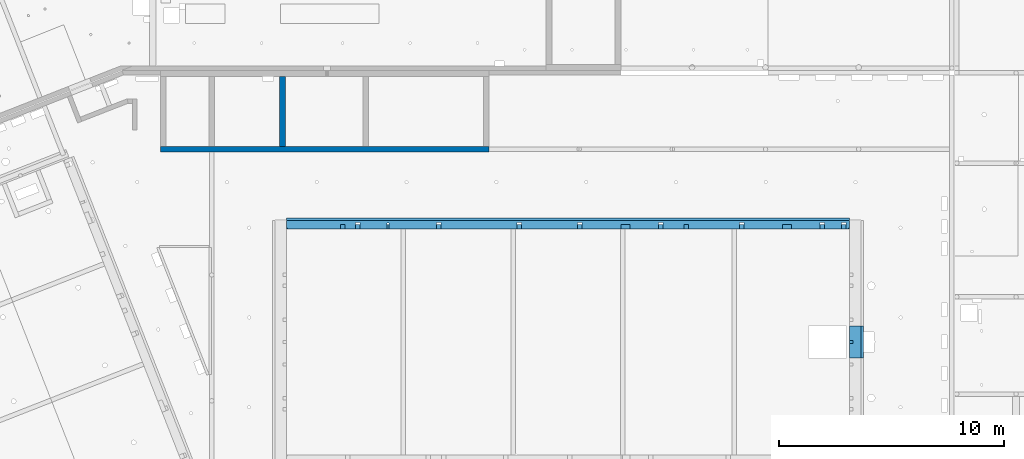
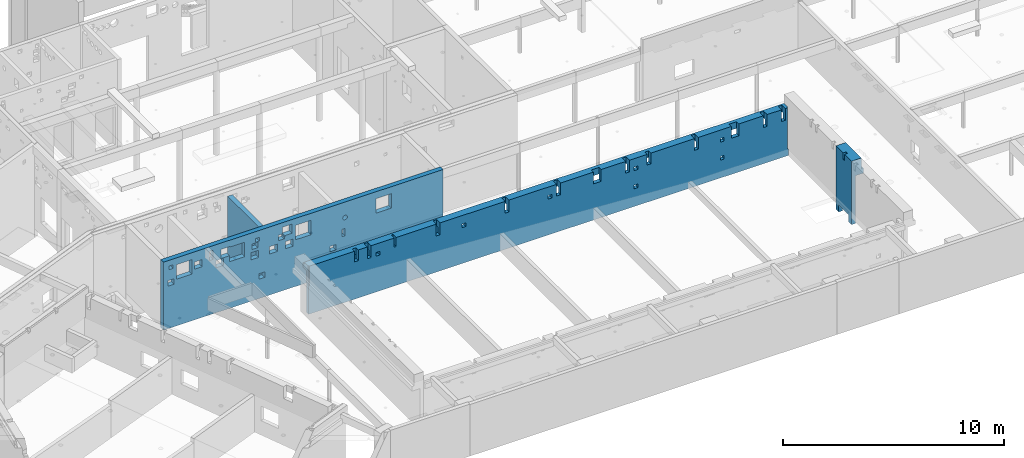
# One storey, part 20 of 28: 4 walls, 47 openings.
"""IFC2X3 building model written with IfcOpenShell, lengths in metres."""

from ifc_helpers import new_model, entity, si_unit, converted_unit, direction, frame, frame_2d, origin, origin_with_axes, place, context, subcontext, project, spatial, polyline, rectangle, outline, extrude, clip, bounded_halfspace, material, layer, layer_set, layer_usage, element, save


model = new_model("IFC2X3")

# Units and contexts
model_context = context("Model", 3, precision=1e-05, world=origin(), true_north=direction((-0.407059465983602, -0.913401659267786)))
body_context = subcontext(model_context, "Body", "Model", "MODEL_VIEW")
ifc_project = project(units=[si_unit("LENGTHUNIT", "METRE"), si_unit("AREAUNIT", "SQUARE_METRE"), si_unit("VOLUMEUNIT", "CUBIC_METRE"), si_unit("MASSUNIT", "GRAM", prefix="KILO"), converted_unit("PLANEANGLEUNIT", "DEGREE", entity("IfcPlaneAngleMeasure", 0.0174532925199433), si_unit("PLANEANGLEUNIT", "RADIAN"), dimensions=[0, 0, 0, 0, 0, 0, 0])], contexts=[model_context])

# Site, buildings, storey
site_placement = place(None, origin())
site = spatial("IfcSite", under=ifc_project, at=site_placement, Name="Site", CompositionType="ELEMENT")
building_1_placement = place(site_placement, origin())
building_1 = spatial("IfcBuilding", under=site, at=building_1_placement, Name="Site", CompositionType="COMPLEX")
building_2_placement = place(building_1_placement, origin())
building_2 = spatial("IfcBuilding", under=building_1, at=building_2_placement, Name="Bâtiments", CompositionType="ELEMENT")
storey_placement = place(building_2_placement, frame((0.0, 0.0, -5.3)))
storey = spatial("IfcBuildingStorey", under=building_2, at=storey_placement, Name="SOUS-SOL", CompositionType="ELEMENT", Elevation=-5.3)

# Wall, openings
ifc_material_1 = material(Name="Béton")
ifc_layer_1 = layer(ifc_material_1, 0.249999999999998)
ifc_layer_set_1 = layer_set([ifc_layer_1])
ifc_layer_usage_1 = layer_usage(ifc_layer_set_1, "AXIS2", "POSITIVE", -0.25)
wall_1_placement = place(storey_placement, frame((42.6996046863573, -8.60897559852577, 1.4), z_axis=(0.0, 0.0, 1.0), x_axis=(-0.99999999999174, 4.06450423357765e-06, 0.0)))
wall_1 = element("IfcWallStandardCase", 1, at=wall_1_placement, inside=storey, material=ifc_layer_usage_1, context=body_context, shape_type="SweptSolid", body=[
    extrude(outline(polyline([(-14.6334113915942, -0.250059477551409), (9.95173959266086e-07, -0.250059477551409), (2.41746759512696e-10, -5.94775514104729e-05), (-14.6334086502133, -5.94775514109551e-05), (-14.6334113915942, -0.250059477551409)])), frame((14.6334113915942, 0.250059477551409, 0.0), z_axis=(0.0, 0.0, 1.0), x_axis=(1.0, 0.0, 0.0)), (0.0, 0.0, 1.0), 3.76),
])
opening_1_placement = place(wall_1_placement, frame((2.71455003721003, -4.25038917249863e-05, 2.58), z_axis=(-9.34414856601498e-12, 1.0, 0.0), x_axis=(0.0, 0.0, 1.0)))
element("IfcOpeningElement", 2, at=opening_1_placement, cuts=wall_1, Name="TE-004", ObjectType="Opening", context=body_context, shape_type="SweptSolid", body=[
    extrude(outline(polyline([(0.0, 0.8), (0.8, 0.8), (0.8, 0.0), (0.0, 0.0), (0.0, 0.8)])), origin_with_axes(), (0.0, 0.0, 1.0), 0.250000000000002),
])
opening_2_placement = place(wall_1_placement, frame((5.00360675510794, 6.35459046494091e-15, 2.78000000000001), z_axis=(-9.3423295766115e-12, 1.0, 0.0), x_axis=(0.0, 0.0, 1.0)))
element("IfcOpeningElement", 3, at=opening_2_placement, cuts=wall_1, Name="CVC-033", ObjectType="Opening", context=body_context, shape_type="SweptSolid", body=[
    extrude(outline(polyline([(0.124999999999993, 0.25), (0.138066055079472, 0.249315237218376), (0.150988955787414, 0.247268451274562), (0.163627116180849, 0.243882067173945), (0.175842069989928, 0.239193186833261), (0.187499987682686, 0.233253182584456), (0.198473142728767, 0.22612713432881), (0.208641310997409, 0.217893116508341), (0.217893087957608, 0.208641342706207), (0.226127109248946, 0.198473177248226), (0.233253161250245, 0.187500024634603), (0.23919316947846, 0.175842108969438), (0.243882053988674, 0.163627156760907), (0.247268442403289, 0.150988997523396), (0.249315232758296, 0.138066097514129), (0.249999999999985, 0.125000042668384), (0.249315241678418, 0.111933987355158), (0.247268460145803, 0.0990110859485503), (0.24388208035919, 0.0863729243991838), (0.239193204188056, 0.0741579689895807), (0.233253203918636, 0.0625000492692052), (0.226127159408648, 0.0515268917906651), (0.217893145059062, 0.0413587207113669), (0.208641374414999, 0.0321069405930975), (0.198473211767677, 0.0238729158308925), (0.187500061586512, 0.0167468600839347), (0.175842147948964, 0.0108068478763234), (0.16362719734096, 0.00611795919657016), (0.150989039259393, 0.00273156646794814), (0.138066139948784, 0.000684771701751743), (0.124999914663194, 0.0), (0.111933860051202, 0.000684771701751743), (0.0990109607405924, 0.00273156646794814), (0.0863728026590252, 0.00611795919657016), (0.0741578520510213, 0.0108068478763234), (0.0624999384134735, 0.0167468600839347), (0.0515267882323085, 0.0238729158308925), (0.0413586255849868, 0.0321069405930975), (0.0321068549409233, 0.0413587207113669), (0.0238728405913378, 0.0515268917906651), (0.0167467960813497, 0.0625000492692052), (0.0108067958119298, 0.0741579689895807), (0.00611791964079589, 0.0863729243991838), (0.00273153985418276, 0.0990110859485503), (0.000684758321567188, 0.111933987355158), (0.0, 0.125000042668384), (0.000684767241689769, 0.138066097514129), (0.0027315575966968, 0.150988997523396), (0.00611794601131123, 0.163627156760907), (0.0108068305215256, 0.175842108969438), (0.0167468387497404, 0.187500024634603), (0.0238728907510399, 0.198473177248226), (0.032106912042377, 0.208641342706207), (0.0413586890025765, 0.217893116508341), (0.0515268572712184, 0.22612713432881), (0.062500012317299, 0.233253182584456), (0.0741579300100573, 0.239193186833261), (0.0863728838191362, 0.243882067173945), (0.0990110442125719, 0.247268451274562), (0.111933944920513, 0.249315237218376), (0.124999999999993, 0.25)])), origin_with_axes(), (0.0, 0.0, 1.0), 0.250000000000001),
])
opening_3_placement = place(wall_1_placement, frame((5.28201565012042, 0.250001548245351, 1.9), z_axis=(9.34232957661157e-12, -1.0, 0.0), x_axis=(0.0, 0.0, 1.0)))
element("IfcOpeningElement", 4, at=opening_3_placement, cuts=wall_1, Name="TE-073", ObjectType="Opening", context=body_context, shape_type="SweptSolid", body=[
    extrude(outline(polyline([(0.0, 0.150000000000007), (0.4, 0.150000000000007), (0.4, 0.0), (0.0, 0.0), (0.0, 0.150000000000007)])), origin_with_axes(), (0.0, 0.0, 1.0), 0.249999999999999),
])
opening_4_placement = place(wall_1_placement, frame((6.91567270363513, -2.57845626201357e-05, 2.58), z_axis=(-9.34596755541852e-12, 1.0, 0.0), x_axis=(0.0, 0.0, 1.0)))
element("IfcOpeningElement", 5, at=opening_4_placement, cuts=wall_1, Name="TE-003", ObjectType="Opening", context=body_context, shape_type="SweptSolid", body=[
    extrude(outline(polyline([(0.0, 0.800000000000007), (0.8, 0.800000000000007), (0.8, 0.0), (0.0, 0.0), (0.0, 0.800000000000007)])), origin_with_axes(), (0.0, 0.0, 1.0), 0.250000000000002),
])
opening_5_placement = place(wall_1_placement, frame((9.62827001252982, 0.250000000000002, 1.07), z_axis=(9.34960553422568e-12, -1.0, 0.0), x_axis=(0.0, 0.0, 1.0)))
element("IfcOpeningElement", 6, at=opening_5_placement, cuts=wall_1, Name="TE-060", ObjectType="Opening", context=body_context, shape_type="SweptSolid", body=[
    extrude(outline(polyline([(0.0, 0.3), (0.3, 0.3), (0.3, 0.0), (0.0, 0.0), (0.0, 0.3)])), origin_with_axes(), (0.0, 0.0, 1.0), 0.250000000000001),
])
opening_6_placement = place(wall_1_placement, frame((9.81827001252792, 0.25000091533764, 3.18), z_axis=(9.3423295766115e-12, -1.0, 0.0), x_axis=(0.0, 0.0, 1.0)))
element("IfcOpeningElement", 7, at=opening_6_placement, cuts=wall_1, Name="TE-061", ObjectType="Opening", context=body_context, shape_type="SweptSolid", body=[
    extrude(outline(polyline([(0.0, 0.199999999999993), (0.2, 0.199999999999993), (0.2, 0.0), (0.0, 0.0), (0.0, 0.199999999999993)])), origin_with_axes(), (0.0, 0.0, 1.0), 0.250000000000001),
])
opening_7_placement = place(wall_1_placement, frame((10.0463155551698, 0.250000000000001, 2.28), z_axis=(9.35688149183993e-12, -1.0, 0.0), x_axis=(0.0, 0.0, 1.0)))
element("IfcOpeningElement", 8, at=opening_7_placement, cuts=wall_1, Name="TE-078", ObjectType="Opening", context=body_context, shape_type="SweptSolid", body=[
    extrude(outline(polyline([(0.0, 0.399999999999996), (0.4, 0.399999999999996), (0.4, 0.0), (0.0, 0.0), (0.0, 0.399999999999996)])), origin_with_axes(), (0.0, 0.0, 1.0), 0.249999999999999),
])
opening_8_placement = place(wall_1_placement, frame((9.99654035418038, 0.249998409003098, 2.84), z_axis=(9.35688149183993e-12, -1.0, 0.0), x_axis=(0.0, 0.0, 1.0)))
element("IfcOpeningElement", 9, at=opening_8_placement, cuts=wall_1, Name="TE-058", ObjectType="Opening", context=body_context, shape_type="SweptSolid", body=[
    extrude(outline(polyline([(0.0, 0.300000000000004), (0.3, 0.300000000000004), (0.3, 0.0), (0.0, 0.0), (0.0, 0.300000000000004)])), origin_with_axes(), (0.0, 0.0, 1.0), 0.249999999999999),
])
opening_9_placement = place(wall_1_placement, frame((11.8769193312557, 0.250000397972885, 2.48), z_axis=(9.35688149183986e-12, -1.0, 0.0), x_axis=(0.0, 0.0, 1.0)))
element("IfcOpeningElement", 10, at=opening_9_placement, cuts=wall_1, Name="TE-079", ObjectType="Opening", context=body_context, shape_type="SweptSolid", body=[
    extrude(outline(polyline([(0.0, 0.400000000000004), (0.4, 0.400000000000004), (0.4, 0.0), (0.0, 0.0), (0.0, 0.400000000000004)])), origin_with_axes(), (0.0, 0.0, 1.0), 0.250000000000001),
])
opening_10_placement = place(wall_1_placement, frame((13.143398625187, -9.99902060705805e-07, 2.58), z_axis=(-9.36415744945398e-12, 1.0, 0.0), x_axis=(0.0, 0.0, 1.0)))
element("IfcOpeningElement", 11, at=opening_10_placement, cuts=wall_1, Name="TE-001", ObjectType="Opening", context=body_context, shape_type="SweptSolid", body=[
    extrude(outline(polyline([(0.0, 0.800000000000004), (0.8, 0.800000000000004), (0.8, 0.0), (0.0, 0.0), (0.0, 0.800000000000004)])), origin_with_axes(), (0.0, 0.0, 1.0), 0.250000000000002),
])
opening_11_placement = place(wall_1_placement, frame((14.0786867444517, -4.04224570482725e-15, 2.35), z_axis=(-9.36415744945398e-12, 1.0, 0.0), x_axis=(0.0, 0.0, 1.0)))
element("IfcOpeningElement", 12, at=opening_11_placement, cuts=wall_1, Name="TE-043", ObjectType="Opening", context=body_context, shape_type="SweptSolid", body=[
    extrude(outline(polyline([(0.0, 0.299999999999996), (0.3, 0.299999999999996), (0.3, 0.0), (0.0, 0.0), (0.0, 0.299999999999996)])), origin_with_axes(), (0.0, 0.0, 1.0), 0.250000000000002),
])
opening_12_placement = place(wall_1_placement, frame((14.1286862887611, -5.10540221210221e-15, 3.24), z_axis=(0.0, 0.0, 1.0), x_axis=(1.0, 7.55109530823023e-15, 0.0)))
element("IfcOpeningElement", 13, at=opening_12_placement, cuts=wall_1, Name="TE-042", ObjectType="Opening", context=body_context, shape_type="SweptSolid", body=[
    extrude(outline(polyline([(4.55690351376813e-07, 4.24146120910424e-16), (0.200000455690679, 0.0), (0.200000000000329, 0.250000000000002), (1.44133338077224e-15, 0.250000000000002), (4.55690351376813e-07, 4.24146120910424e-16)])), origin_with_axes(), (0.0, 0.0, 1.0), 0.2),
])
opening_13_placement = place(wall_1_placement, frame((12.9993366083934, 0.249999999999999, 2.8), z_axis=(9.35688149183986e-12, -1.0, 0.0), x_axis=(0.0, 0.0, 1.0)))
element("IfcOpeningElement", 14, at=opening_13_placement, cuts=wall_1, Name="CVC-036", ObjectType="Opening", context=body_context, shape_type="SweptSolid", body=[
    extrude(outline(polyline([(0.0, 0.4), (0.4, 0.4), (0.4, 0.0), (0.0, 0.0), (0.0, 0.4)])), origin_with_axes(), (0.0, 0.0, 1.0), 0.250000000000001),
])
opening_14_placement = place(wall_1_placement, frame((9.0769169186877, 0.250000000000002, 2.27), z_axis=(9.3423295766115e-12, -1.0, 0.0), x_axis=(0.0, 0.0, 1.0)))
element("IfcOpeningElement", 15, at=opening_14_placement, cuts=wall_1, Name="TE-077", ObjectType="Opening", context=body_context, shape_type="SweptSolid", body=[
    extrude(outline(polyline([(0.0, 0.4), (0.4, 0.4), (0.4, 0.0), (0.0, 0.0), (0.0, 0.4)])), origin_with_axes(), (0.0, 0.0, 1.0), 0.250000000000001),
])
opening_15_placement = place(wall_1_placement, frame((8.6101501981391, 0.250000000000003, 2.84), z_axis=(9.34232957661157e-12, -1.0, 0.0), x_axis=(0.0, 0.0, 1.0)))
element("IfcOpeningElement", 16, at=opening_15_placement, cuts=wall_1, Name="TE-057", ObjectType="Opening", context=body_context, shape_type="SweptSolid", body=[
    extrude(outline(polyline([(0.0, 0.3), (0.3, 0.3), (0.3, 0.0), (0.0, 0.0), (0.0, 0.3)])), origin_with_axes(), (0.0, 0.0, 1.0), 0.249999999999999),
])
opening_16_placement = place(wall_1_placement, frame((8.38039362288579, 0.250000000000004, 2.94), z_axis=(9.3423295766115e-12, -1.0, 0.0), x_axis=(0.0, 0.0, 1.0)))
element("IfcOpeningElement", 17, at=opening_16_placement, cuts=wall_1, Name="TE-064", ObjectType="Opening", context=body_context, shape_type="SweptSolid", body=[
    extrude(outline(polyline([(0.0, 0.1), (0.1, 0.1), (0.1, 0.0), (0.0, 0.0), (0.0, 0.1)])), origin_with_axes(), (0.0, 0.0, 1.0), 0.250000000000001),
])
opening_17_placement = place(wall_1_placement, frame((8.24570275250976, 0.25000125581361, 2.27), z_axis=(9.3423295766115e-12, -1.0, 0.0), x_axis=(0.0, 0.0, 1.0)))
element("IfcOpeningElement", 18, at=opening_17_placement, cuts=wall_1, Name="TE-076", ObjectType="Opening", context=body_context, shape_type="SweptSolid", body=[
    extrude(outline(polyline([(0.0, 0.4), (0.4, 0.4), (0.4, 0.0), (0.0, 0.0), (0.0, 0.4)])), origin_with_axes(), (0.0, 0.0, 1.0), 0.250000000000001),
])
opening_18_placement = place(wall_1_placement, frame((8.40933420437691, 0.249999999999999, 3.01), z_axis=(9.34232957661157e-12, -1.0, 0.0), x_axis=(0.0, 0.0, 1.0)))
element("IfcOpeningElement", 19, at=opening_18_placement, cuts=wall_1, Name="CVC-034", ObjectType="Opening", context=body_context, shape_type="SweptSolid", body=[
    extrude(outline(polyline([(0.0, 0.499999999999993), (0.5, 0.499999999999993), (0.5, 0.0), (0.0, 0.0), (0.0, 0.499999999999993)])), origin_with_axes(), (0.0, 0.0, 1.0), 0.249999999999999),
])
opening_19_placement = place(wall_1_placement, frame((10.3790185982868, -2.98402384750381e-07, 2.58), z_axis=(-9.35688149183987e-12, 1.0, 0.0), x_axis=(0.0, 0.0, 1.0)))
element("IfcOpeningElement", 20, at=opening_19_placement, cuts=wall_1, Name="TE-002", ObjectType="Opening", context=body_context, shape_type="SweptSolid", body=[
    extrude(outline(polyline([(0.0, 0.800000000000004), (0.8, 0.800000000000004), (0.8, 0.0), (0.0, 0.0), (0.0, 0.800000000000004)])), origin_with_axes(), (0.0, 0.0, 1.0), 0.250000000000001),
])
opening_20_placement = place(wall_1_placement, frame((11.6193342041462, 0.25, 2.91), z_axis=(9.36415744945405e-12, -1.0, 0.0), x_axis=(0.0, 0.0, 1.0)))
element("IfcOpeningElement", 21, at=opening_20_placement, cuts=wall_1, Name="CVC-035", ObjectType="Opening", context=body_context, shape_type="SweptSolid", body=[
    extrude(outline(polyline([(0.0, 0.5), (0.5, 0.5), (0.5, 0.0), (0.0, 0.0), (0.0, 0.5)])), origin_with_axes(), (0.0, 0.0, 1.0), 0.250000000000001),
])
opening_21_placement = place(wall_1_placement, frame((12.2282269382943, 0.249999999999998, 3.01), z_axis=(9.36415744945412e-12, -1.0, 0.0), x_axis=(0.0, 0.0, 1.0)))
element("IfcOpeningElement", 22, at=opening_21_placement, cuts=wall_1, Name="YE-044", ObjectType="Opening", context=body_context, shape_type="SweptSolid", body=[
    extrude(outline(polyline([(0.0, 0.200000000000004), (0.5, 0.200000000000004), (0.5, 0.0), (0.0, 0.0), (0.0, 0.200000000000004)])), origin_with_axes(), (0.0, 0.0, 1.0), 0.249999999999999),
])
opening_22_placement = place(wall_1_placement, frame((5.91560408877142, 0.250000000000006, 1.28), z_axis=(9.34596755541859e-12, -1.0, 0.0), x_axis=(0.0, 0.0, 1.0)))
element("IfcOpeningElement", 23, at=opening_22_placement, cuts=wall_1, Name="TE-067", ObjectType="Opening", context=body_context, shape_type="SweptSolid", body=[
    extrude(outline(polyline([(0.0, 0.299999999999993), (0.3, 0.299999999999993), (0.3, 0.0), (0.0, 0.0), (0.0, 0.299999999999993)])), origin_with_axes(), (0.0, 0.0, 1.0), 0.250000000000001),
])

ifc_material_2 = material(Name="Béton")
ifc_layer_2 = layer(ifc_material_2, 0.200000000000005)
ifc_material_3 = material(Name="Béton")
ifc_layer_3 = layer(ifc_material_3, 0.189999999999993)
ifc_material_4 = material(Name="Béton")
ifc_layer_4 = layer(ifc_material_4, 0.110000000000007)
ifc_layer_set_2 = layer_set([ifc_layer_2, ifc_layer_3, ifc_layer_4])
ifc_layer_usage_2 = layer_usage(ifc_layer_set_2, "AXIS2", "POSITIVE", 0.0)
wall_2_placement = place(storey_placement, frame((33.6733842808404, -12.2993058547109, 2.4), z_axis=(0.0, 0.0, 1.0), x_axis=(1.0, -2.90109952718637e-16, 0.0)))
wall_2 = element("IfcWallStandardCase", 24, at=wall_2_placement, inside=storey, material=ifc_layer_usage_2, context=body_context, shape_type="Clipping", body=[
    clip(clip(extrude(rectangle(XDim=25.08, YDim=0.499999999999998, at=frame_2d((12.54, 0.249999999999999), x_axis=(1.0, 0.0))), origin_with_axes(), (0.0, 0.0, 1.0), 2.65), bounded_halfspace(frame((12.54, 0.349999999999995, 2.29), z_axis=(2.26648400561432e-18, 9.47390314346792e-16, 1.0), x_axis=(1.0, 7.25274881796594e-17, -4.53296801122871e-18)), True, origin_with_axes(), polyline([(-5.80219905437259e-17, 0.199999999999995), (25.08, 0.199999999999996), (25.08, 0.499999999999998), (-1.45054976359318e-16, 0.499999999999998), (-5.80219905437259e-17, 0.199999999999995)]))), bounded_halfspace(frame((12.54, 0.444999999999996, 2.55), z_axis=(0.0, 0.0, -1.0), x_axis=(1.0, 7.25274881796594e-17, 0.0)), True, origin_with_axes(), polyline([(-1.13142881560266e-16, 0.389999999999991), (25.08, 0.389999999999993), (25.08, 0.499999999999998), (-1.45054976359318e-16, 0.499999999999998), (-1.13142881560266e-16, 0.389999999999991)]))),
])
opening_23_placement = place(wall_2_placement, frame((2.39999999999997, 6.96263886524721e-16, 2.06), z_axis=(0.0, 1.0, 0.0), x_axis=(0.0, 0.0, 1.0)))
element("IfcOpeningElement", 25, at=opening_23_placement, cuts=wall_2, Name="Percement dans mur", ObjectType="Opening", context=body_context, shape_type="SweptSolid", body=[
    extrude(outline(polyline([(0.0, 0.2), (0.59, 0.2), (0.59, 0.0), (0.0, 0.0), (0.0, 0.2)])), origin_with_axes(), (0.0, 0.0, 1.0), 0.199999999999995),
])
opening_24_placement = place(wall_2_placement, frame((3.07499999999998, -9.26901298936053e-16, 2.0), z_axis=(0.0, 1.0, 0.0), x_axis=(0.0, 0.0, 1.0)))
element("IfcOpeningElement", 26, at=opening_24_placement, cuts=wall_2, Name="Percement dans mur", ObjectType="Opening", context=body_context, shape_type="SweptSolid", body=[
    extrude(outline(polyline([(0.0, 0.2), (0.65, 0.2), (0.65, 0.0), (0.0, 0.0), (0.0, 0.2)])), origin_with_axes(), (0.0, 0.0, 1.0), 0.199999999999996),
    extrude(outline(polyline([(0.0, 0.2), (0.65, 0.2), (0.65, 0.0), (0.0, 0.0), (0.0, 0.2)])), frame((0.0, 0.0, 0.199999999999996), z_axis=(0.0, 0.0, 1.0), x_axis=(1.0, 0.0, 0.0)), (0.0, 0.0, 1.0), 0.100000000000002),
])
opening_25_placement = place(wall_2_placement, frame((6.67499999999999, -1.62534101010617e-14, 2.0), z_axis=(0.0, 1.0, 0.0), x_axis=(0.0, 0.0, 1.0)))
element("IfcOpeningElement", 27, at=opening_25_placement, cuts=wall_2, Name="Percement dans mur", ObjectType="Opening", context=body_context, shape_type="SweptSolid", body=[
    extrude(outline(polyline([(0.0, 0.2), (0.65, 0.2), (0.65, 0.0), (0.0, 0.0), (0.0, 0.2)])), origin_with_axes(), (0.0, 0.0, 1.0), 0.199999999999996),
    extrude(outline(polyline([(0.0, 0.2), (0.65, 0.2), (0.65, 0.0), (0.0, 0.0), (0.0, 0.2)])), frame((0.0, 0.0, 0.199999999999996), z_axis=(0.0, 0.0, 1.0), x_axis=(1.0, 0.0, 0.0)), (0.0, 0.0, 1.0), 0.100000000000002),
])
opening_26_placement = place(wall_2_placement, frame((10.275, -1.52090142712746e-14, 2.0), z_axis=(0.0, 1.0, 0.0), x_axis=(0.0, 0.0, 1.0)))
element("IfcOpeningElement", 28, at=opening_26_placement, cuts=wall_2, Name="Percement dans mur", ObjectType="Opening", context=body_context, shape_type="SweptSolid", body=[
    extrude(outline(polyline([(0.0, 0.2), (0.65, 0.2), (0.65, 0.0), (0.0, 0.0), (0.0, 0.2)])), origin_with_axes(), (0.0, 0.0, 1.0), 0.199999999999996),
    extrude(outline(polyline([(0.0, 0.2), (0.65, 0.2), (0.65, 0.0), (0.0, 0.0), (0.0, 0.2)])), frame((0.0, 0.0, 0.199999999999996), z_axis=(0.0, 0.0, 1.0), x_axis=(1.0, 0.0, 0.0)), (0.0, 0.0, 1.0), 0.100000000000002),
])
opening_27_placement = place(wall_2_placement, frame((12.975, -5.08055054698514e-14, 2.0), z_axis=(0.0, 1.0, 0.0), x_axis=(0.0, 0.0, 1.0)))
element("IfcOpeningElement", 29, at=opening_27_placement, cuts=wall_2, Name="Percement dans mur", ObjectType="Opening", context=body_context, shape_type="SweptSolid", body=[
    extrude(outline(polyline([(0.0, 0.2), (0.65, 0.2), (0.65, 0.0), (0.0, 0.0), (0.0, 0.2)])), origin_with_axes(), (0.0, 0.0, 1.0), 0.199999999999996),
    extrude(outline(polyline([(0.0, 0.2), (0.65, 0.2), (0.65, 0.0), (0.0, 0.0), (0.0, 0.2)])), frame((0.0, 0.0, 0.199999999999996), z_axis=(0.0, 0.0, 1.0), x_axis=(1.0, 0.0, 0.0)), (0.0, 0.0, 1.0), 0.100000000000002),
])
opening_28_placement = place(wall_2_placement, frame((16.575, -4.97611096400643e-14, 2.0), z_axis=(0.0, 1.0, 0.0), x_axis=(0.0, 0.0, 1.0)))
element("IfcOpeningElement", 30, at=opening_28_placement, cuts=wall_2, Name="Percement dans mur", ObjectType="Opening", context=body_context, shape_type="SweptSolid", body=[
    extrude(outline(polyline([(0.0, 0.2), (0.65, 0.2), (0.65, 0.0), (0.0, 0.0), (0.0, 0.2)])), origin_with_axes(), (0.0, 0.0, 1.0), 0.199999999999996),
    extrude(outline(polyline([(0.0, 0.2), (0.65, 0.2), (0.65, 0.0), (0.0, 0.0), (0.0, 0.2)])), frame((0.0, 0.0, 0.199999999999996), z_axis=(0.0, 0.0, 1.0), x_axis=(1.0, 0.0, 0.0)), (0.0, 0.0, 1.0), 0.100000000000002),
])
opening_29_placement = place(wall_2_placement, frame((20.1750000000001, -4.87167138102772e-14, 2.0), z_axis=(0.0, 1.0, 0.0), x_axis=(0.0, 0.0, 1.0)))
element("IfcOpeningElement", 31, at=opening_29_placement, cuts=wall_2, Name="Percement dans mur", ObjectType="Opening", context=body_context, shape_type="SweptSolid", body=[
    extrude(outline(polyline([(0.0, 0.2), (0.65, 0.2), (0.65, 0.0), (0.0, 0.0), (0.0, 0.2)])), origin_with_axes(), (0.0, 0.0, 1.0), 0.199999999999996),
    extrude(outline(polyline([(0.0, 0.2), (0.65, 0.2), (0.65, 0.0), (0.0, 0.0), (0.0, 0.2)])), frame((0.0, 0.0, 0.199999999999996), z_axis=(0.0, 0.0, 1.0), x_axis=(1.0, 0.0, 0.0)), (0.0, 0.0, 1.0), 0.100000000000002),
])
opening_30_placement = place(wall_2_placement, frame((23.775, -4.76723179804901e-14, 2.0), z_axis=(0.0, 1.0, 0.0), x_axis=(0.0, 0.0, 1.0)))
element("IfcOpeningElement", 32, at=opening_30_placement, cuts=wall_2, Name="Percement dans mur", ObjectType="Opening", context=body_context, shape_type="SweptSolid", body=[
    extrude(outline(polyline([(0.0, 0.2), (0.65, 0.2), (0.65, 0.0), (0.0, 0.0), (0.0, 0.2)])), origin_with_axes(), (0.0, 0.0, 1.0), 0.199999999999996),
    extrude(outline(polyline([(0.0, 0.2), (0.65, 0.2), (0.65, 0.0), (0.0, 0.0), (0.0, 0.2)])), frame((0.0, 0.0, 0.199999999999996), z_axis=(0.0, 0.0, 1.0), x_axis=(1.0, 0.0, 0.0)), (0.0, 0.0, 1.0), 0.100000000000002),
])
opening_31_placement = place(wall_2_placement, frame((24.7250000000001, -6.74055969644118e-14, 2.0), z_axis=(0.0, 1.0, 0.0), x_axis=(0.0, 0.0, 1.0)))
element("IfcOpeningElement", 33, at=opening_31_placement, cuts=wall_2, Name="Percement dans mur", ObjectType="Opening", context=body_context, shape_type="SweptSolid", body=[
    extrude(outline(polyline([(0.0, 0.2), (0.65, 0.2), (0.65, 0.0), (0.0, 0.0), (0.0, 0.2)])), origin_with_axes(), (0.0, 0.0, 1.0), 0.199999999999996),
    extrude(outline(polyline([(0.0, 0.2), (0.65, 0.2), (0.65, 0.0), (0.0, 0.0), (0.0, 0.2)])), frame((0.0, 0.0, 0.199999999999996), z_axis=(0.0, 0.0, 1.0), x_axis=(1.0, 0.0, 0.0)), (0.0, 0.0, 1.0), 0.100000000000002),
])
opening_32_placement = place(wall_2_placement, frame((21.5249999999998, 7.87648521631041e-16, 0.98), z_axis=(0.0, 1.0, 0.0), x_axis=(0.0, 0.0, 1.0)))
element("IfcOpeningElement", 34, at=opening_32_placement, cuts=wall_2, Name="Percement dans mur", ObjectType="Opening", context=body_context, shape_type="SweptSolid", body=[
    extrude(outline(polyline([(0.0, 0.2), (0.2, 0.2), (0.2, 0.0), (0.0, 0.0), (0.0, 0.2)])), origin_with_axes(), (0.0, 0.0, 1.0), 0.199999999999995),
])
opening_33_placement = place(wall_2_placement, frame((21.5249999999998, 7.87648521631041e-16, 1.98), z_axis=(0.0, 1.0, 0.0), x_axis=(0.0, 0.0, 1.0)))
element("IfcOpeningElement", 35, at=opening_33_placement, cuts=wall_2, Name="Percement dans mur", ObjectType="Opening", context=body_context, shape_type="SweptSolid", body=[
    extrude(outline(polyline([(0.0, 0.2), (0.2, 0.2), (0.2, 0.0), (0.0, 0.0), (0.0, 0.2)])), origin_with_axes(), (0.0, 0.0, 1.0), 0.199999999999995),
])
opening_34_placement = place(wall_2_placement, frame((22.0999999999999, -8.64527659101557e-16, 2.0), z_axis=(0.0, 1.0, 0.0), x_axis=(0.0, 0.0, 1.0)))
element("IfcOpeningElement", 36, at=opening_34_placement, cuts=wall_2, Name="Percement dans mur", ObjectType="Opening", context=body_context, shape_type="SweptSolid", body=[
    extrude(outline(polyline([(0.0, 0.4), (0.65, 0.4), (0.65, 0.0), (0.0, 0.0), (0.0, 0.4)])), origin_with_axes(), (0.0, 0.0, 1.0), 0.199999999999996),
])
opening_35_placement = place(wall_2_placement, frame((8.02499999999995, -5.04225603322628e-14, 1.98), z_axis=(0.0, 1.0, 0.0), x_axis=(0.0, 0.0, 1.0)))
element("IfcOpeningElement", 37, at=opening_35_placement, cuts=wall_2, Name="Percement dans mur", ObjectType="Opening", context=body_context, shape_type="SweptSolid", body=[
    extrude(outline(polyline([(0.0, 0.2), (0.2, 0.2), (0.2, 0.0), (0.0, 0.0), (0.0, 0.2)])), origin_with_axes(), (0.0, 0.0, 1.0), 0.199999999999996),
])
opening_36_placement = place(wall_2_placement, frame((12.525, -6.18499913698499e-14, 1.98), z_axis=(0.0, 1.0, 0.0), x_axis=(0.0, 0.0, 1.0)))
element("IfcOpeningElement", 38, at=opening_36_placement, cuts=wall_2, Name="Percement dans mur", ObjectType="Opening", context=body_context, shape_type="SweptSolid", body=[
    extrude(outline(polyline([(0.0, 0.2), (0.2, 0.2), (0.2, 0.0), (0.0, 0.0), (0.0, 0.2)])), origin_with_axes(), (0.0, 0.0, 1.0), 0.199999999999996),
])
opening_37_placement = place(wall_2_placement, frame((17.025, -6.23634859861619e-14, 1.98), z_axis=(0.0, 1.0, 0.0), x_axis=(0.0, 0.0, 1.0)))
element("IfcOpeningElement", 39, at=opening_37_placement, cuts=wall_2, Name="Percement dans mur", ObjectType="Opening", context=body_context, shape_type="SweptSolid", body=[
    extrude(outline(polyline([(0.0, 0.2), (0.2, 0.2), (0.2, 0.0), (0.0, 0.0), (0.0, 0.2)])), origin_with_axes(), (0.0, 0.0, 1.0), 0.199999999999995),
])
opening_38_placement = place(wall_2_placement, frame((17.025, -6.23634859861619e-14, 0.98), z_axis=(0.0, 1.0, 0.0), x_axis=(0.0, 0.0, 1.0)))
element("IfcOpeningElement", 40, at=opening_38_placement, cuts=wall_2, Name="Percement dans mur", ObjectType="Opening", context=body_context, shape_type="SweptSolid", body=[
    extrude(outline(polyline([(0.0, 0.2), (0.2, 0.2), (0.2, 0.0), (0.0, 0.0), (0.0, 0.2)])), origin_with_axes(), (0.0, 0.0, 1.0), 0.199999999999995),
])
opening_39_placement = place(wall_2_placement, frame((14.9, -6.11609802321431e-14, 2.0), z_axis=(0.0, 1.0, 0.0), x_axis=(0.0, 0.0, 1.0)))
element("IfcOpeningElement", 41, at=opening_39_placement, cuts=wall_2, Name="Percement dans mur", ObjectType="Opening", context=body_context, shape_type="SweptSolid", body=[
    extrude(outline(polyline([(0.0, 0.4), (0.65, 0.4), (0.65, 0.0), (0.0, 0.0), (0.0, 0.4)])), origin_with_axes(), (0.0, 0.0, 1.0), 0.199999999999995),
])
opening_40_placement = place(wall_2_placement, frame((17.7, -3.22022047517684e-16, 2.06), z_axis=(0.0, 1.0, 0.0), x_axis=(0.0, 0.0, 1.0)))
element("IfcOpeningElement", 42, at=opening_40_placement, cuts=wall_2, Name="Percement dans mur", ObjectType="Opening", context=body_context, shape_type="SweptSolid", body=[
    extrude(outline(polyline([(0.0, 0.2), (0.59, 0.2), (0.59, 0.0), (0.0, 0.0), (0.0, 0.2)])), origin_with_axes(), (0.0, 0.0, 1.0), 0.199999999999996),
])
opening_41_placement = place(wall_2_placement, frame((2.11082771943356e-30, -7.27595761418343e-15, 1.57), z_axis=(-2.90109952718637e-16, 1.0, 0.0), x_axis=(0.0, 0.0, 1.0)))
element("IfcOpeningElement", 43, at=opening_41_placement, cuts=wall_2, Name="Percement dans mur", ObjectType="Opening", context=body_context, shape_type="SweptSolid", body=[
    extrude(outline(polyline([(0.0, 0.05), (1.08, 0.05), (1.08, 0.0), (0.0, 0.0), (0.0, 0.05)])), origin_with_axes(), (0.0, 0.0, 1.0), 0.05),
])
opening_42_placement = place(wall_2_placement, frame((25.03, -1.45054976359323e-17, 0.37), z_axis=(0.0, 1.0, 0.0), x_axis=(0.0, 0.0, 1.0)))
element("IfcOpeningElement", 44, at=opening_42_placement, cuts=wall_2, Name="Percement dans mur", ObjectType="Opening", context=body_context, shape_type="SweptSolid", body=[
    extrude(outline(polyline([(0.0, 0.05), (2.28, 0.05), (2.28, 0.0), (0.0, 0.0), (0.0, 0.05)])), origin_with_axes(), (0.0, 0.0, 1.0), 0.05),
])
opening_43_placement = place(wall_2_placement, frame((3.52499999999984, -7.96351820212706e-16, 1.98), z_axis=(0.0, 1.0, 0.0), x_axis=(0.0, 0.0, 1.0)))
element("IfcOpeningElement", 45, at=opening_43_placement, cuts=wall_2, Name="Percement dans mur", ObjectType="Opening", context=body_context, shape_type="SweptSolid", body=[
    extrude(outline(polyline([(0.0, 0.2), (0.2, 0.2), (0.2, 0.0), (0.0, 0.0), (0.0, 0.2)])), origin_with_axes(), (0.0, 0.0, 1.0), 0.199999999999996),
])
opening_44_placement = place(wall_2_placement, frame((4.47499999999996, -1.87106414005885e-14, 2.15), z_axis=(0.0, 1.0, 0.0), x_axis=(0.0, 0.0, 1.0)))
element("IfcOpeningElement", 46, at=opening_44_placement, cuts=wall_2, Name="Percement dans mur", ObjectType="Opening", context=body_context, shape_type="SweptSolid", body=[
    extrude(outline(polyline([(0.0, 0.1), (0.5, 0.1), (0.5, 0.0), (0.0, 0.0), (0.0, 0.1)])), origin_with_axes(), (0.0, 0.0, 1.0), 0.199999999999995),
    extrude(outline(polyline([(0.0, 0.1), (0.5, 0.1), (0.5, 0.0), (0.0, 0.0), (0.0, 0.1)])), frame((0.0, 0.0, 0.199999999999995), z_axis=(0.0, 0.0, 1.0), x_axis=(1.0, 0.0, 0.0)), (0.0, 0.0, 1.0), 0.0800000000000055),
])

ifc_material_5 = material(Name="Béton")
ifc_layer_5 = layer(ifc_material_5, 0.199999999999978)
ifc_material_6 = material(Name="Béton")
ifc_layer_6 = layer(ifc_material_6, 0.31)
ifc_material_7 = material(Name="Béton")
ifc_layer_7 = layer(ifc_material_7, 0.11)
ifc_layer_set_3 = layer_set([ifc_layer_5, ifc_layer_6, ifc_layer_7])
ifc_layer_usage_3 = layer_usage(ifc_layer_set_3, "AXIS2", "POSITIVE", -0.199999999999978)
wall_3_placement = place(storey_placement, frame((58.7533842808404, -16.6193058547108, 2.05), z_axis=(0.0, 0.0, 1.0), x_axis=(0.0, -1.0, 0.0)))
wall_3 = element("IfcWallStandardCase", 47, at=wall_3_placement, inside=storey, material=ifc_layer_usage_3, context=body_context, shape_type="Clipping", body=[
    clip(clip(extrude(rectangle(XDim=1.41365287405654, YDim=0.619999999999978, at=frame_2d((0.706826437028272, 0.309999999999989), x_axis=(1.0, 0.0))), origin_with_axes(), (0.0, 0.0, 1.0), 3.51), bounded_halfspace(frame((0.70682643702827, 0.409999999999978, 2.64), z_axis=(0.0, 0.0, 1.0), x_axis=(1.0, 0.0, 0.0)), True, origin_with_axes(), polyline([(0.0, 0.199999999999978), (1.41365287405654, 0.199999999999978), (1.41365287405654, 0.619999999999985), (0.0, 0.619999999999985), (0.0, 0.199999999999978)]))), bounded_halfspace(frame((0.70682643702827, 0.564999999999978, 2.9), z_axis=(0.0, 0.0, -1.0), x_axis=(1.0, 0.0, 0.0)), True, origin_with_axes(), polyline([(0.0, 0.509999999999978), (1.41365287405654, 0.509999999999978), (1.41365287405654, 0.619999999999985), (0.0, 0.619999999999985), (0.0, 0.509999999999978)]))),
])
opening_45_placement = place(wall_3_placement, frame((0.630000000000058, 0.0, 3.15), z_axis=(0.0, 1.0, 0.0), x_axis=(0.0, 0.0, 1.0)))
element("IfcOpeningElement", 48, at=opening_45_placement, cuts=wall_3, Name="Percement dans mur", ObjectType="Opening", context=body_context, shape_type="SweptSolid", body=[
    extrude(outline(polyline([(0.0, 0.15), (0.36, 0.15), (0.36, 0.0), (0.0, 0.0), (0.0, 0.15)])), origin_with_axes(), (0.0, 0.0, 1.0), 0.15),
])
opening_46_placement = place(wall_3_placement, frame((0.250000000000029, 0.0, 0.0), z_axis=(0.0, 1.0, 0.0), x_axis=(0.0, 0.0, 1.0)))
element("IfcOpeningElement", 49, at=opening_46_placement, cuts=wall_3, Name="Percement dans mur", ObjectType="Opening", context=body_context, shape_type="SweptSolid", body=[
    extrude(outline(polyline([(0.0, 0.9), (0.4, 0.9), (0.4, 0.0), (0.0, 0.0), (0.0, 0.9)])), origin_with_axes(), (0.0, 0.0, 1.0), 0.199999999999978),
])
opening_47_placement = place(wall_3_placement, frame((0.0, 0.0, 3.5)))
element("IfcOpeningElement", 50, at=opening_47_placement, cuts=wall_3, Name="Percement dans mur", ObjectType="Opening", context=body_context, shape_type="SweptSolid", body=[
    extrude(outline(polyline([(0.0, 0.0), (1.41365287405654, 0.0), (1.41365287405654, 0.100000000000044), (0.0, 0.100000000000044), (0.0, 0.0)])), origin_with_axes(), (0.0, 0.0, 1.0), 0.01),
])

# Wall
ifc_material_8 = material(Name="Béton")
ifc_layer_8 = layer(ifc_material_8, 0.25)
ifc_layer_set_4 = layer_set([ifc_layer_8])
ifc_layer_usage_4 = layer_usage(ifc_layer_set_4, "AXIS2", "POSITIVE", -0.125)
wall_4_placement = place(storey_placement, frame((33.6226877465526, -8.60893870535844, 1.4), z_axis=(0.0, 0.0, 1.0), x_axis=(0.0, 1.0, 0.0)))
element("IfcWallStandardCase", 51, at=wall_4_placement, inside=storey, material=ifc_layer_usage_4, context=body_context, shape_type="SweptSolid", body=[
    extrude(outline(polyline([(0.0, -0.25), (3.12004908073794, -0.25), (3.12004908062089, 0.0), (1.01612605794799e-06, 0.0), (0.0, -0.25)])), frame((0.0, 0.25, 0.0), z_axis=(0.0, 0.0, 1.0), x_axis=(1.0, 0.0, 0.0)), (0.0, 0.0, 1.0), 3.51),
])

save(model, "model.ifc")
